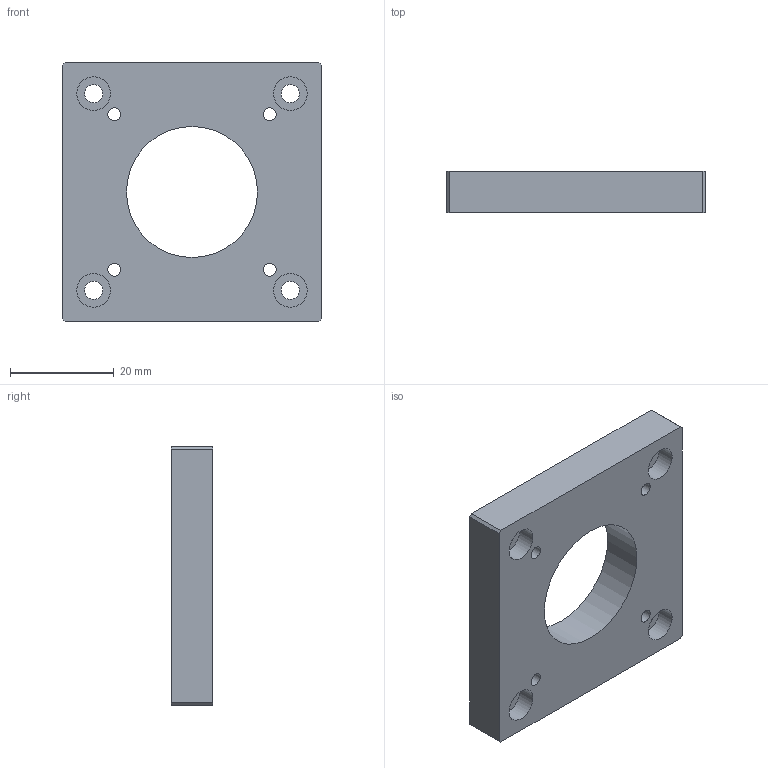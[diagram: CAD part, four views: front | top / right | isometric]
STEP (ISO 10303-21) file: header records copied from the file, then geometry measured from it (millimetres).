
FILE_DESCRIPTION(/* description */ (''),/* implementation_level */ '2;1');
FILE_NAME(/* name */ '\\fs001\share\Public_Div\41_開発部\開発\①開発案件\1_ケージシステム\図面\C30-CB-CVP-M26.3\C30-CB-CVP-M26.3_STP\C30-CB-CVP-M26.3.stp',/* time_stamp */ '2018-09-13T04:15:19-07:00',/* author */ ('ka.nakajima'),/* organization */ (''),/* preprocessor_version */ 'ST-DEVELOPER v16.13',/* originating_system */ 'Autodesk Inventor 2018',/* authorisation */ '');
FILE_SCHEMA (('AUTOMOTIVE_DESIGN { 1 0 10303 214 3 1 1 }'));
Length unit declared in the file: millimetre
Products named in the file (1): C30-CB-CVP-M26.3
Bounding box: 50 x 8 x 50 mm (x, y, z)
Volume: 15181.3 mm3; surface area: 6839.3 mm2
Topology: 1 solids, 1 shells, 27 faces, 68 edges, 47 vertices
Faces by surface type: plane 14, cylinder 13
Full cylindrical faces by diameter (mm): 2.5 x4, 3.5 x4, 6.5 x4, 25.294 x1
Entity records: 820 total; most frequent: DIRECTION 132, CARTESIAN_POINT 120, ORIENTED_EDGE 100, EDGE_LOOP 62, AXIS2_PLACEMENT_3D 54, EDGE_CURVE 50, VERTEX_POINT 42, FACE_BOUND 35
